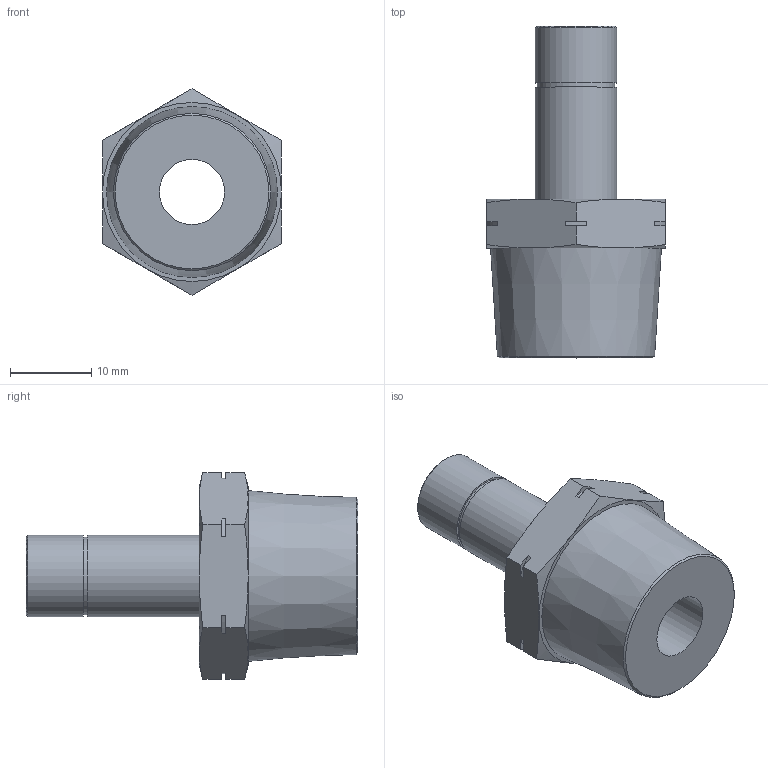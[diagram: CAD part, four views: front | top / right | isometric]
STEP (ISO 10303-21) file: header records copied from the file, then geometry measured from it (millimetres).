
FILE_DESCRIPTION(/* description */ (''),/* implementation_level */ '2;1');
FILE_NAME(/* name */ 'LXH15 0010 N4.stp',/* time_stamp */ '2026-04-28T16:24:50+02:00',/* author */ ('freju'),/* organization */ (''),/* preprocessor_version */ 'ST-DEVELOPER v20.1',/* originating_system */ 'Autodesk Inventor 2026',/* authorisation */ '');
FILE_SCHEMA (('AUTOMOTIVE_DESIGN { 1 0 10303 214 3 1 1 }'));
Length unit declared in the file: millimetre
Products named in the file (1): LXH15 0010 N4
Bounding box: 22 x 40.8 x 25.4 mm (x, y, z)
Volume: 6428.4 mm3; surface area: 3686.6 mm2
Topology: 1 solids, 1 shells, 49 faces, 117 edges, 74 vertices
Faces by surface type: plane 24, cone 15, cylinder 10
Full cylindrical faces by diameter (mm): 8 x1, 9.5 x1, 10 x2
Entity records: 1436 total; most frequent: CARTESIAN_POINT 289, ORIENTED_EDGE 234, DIRECTION 231, EDGE_CURVE 117, AXIS2_PLACEMENT_3D 88, VERTEX_POINT 74, EDGE_LOOP 55, LINE 55
